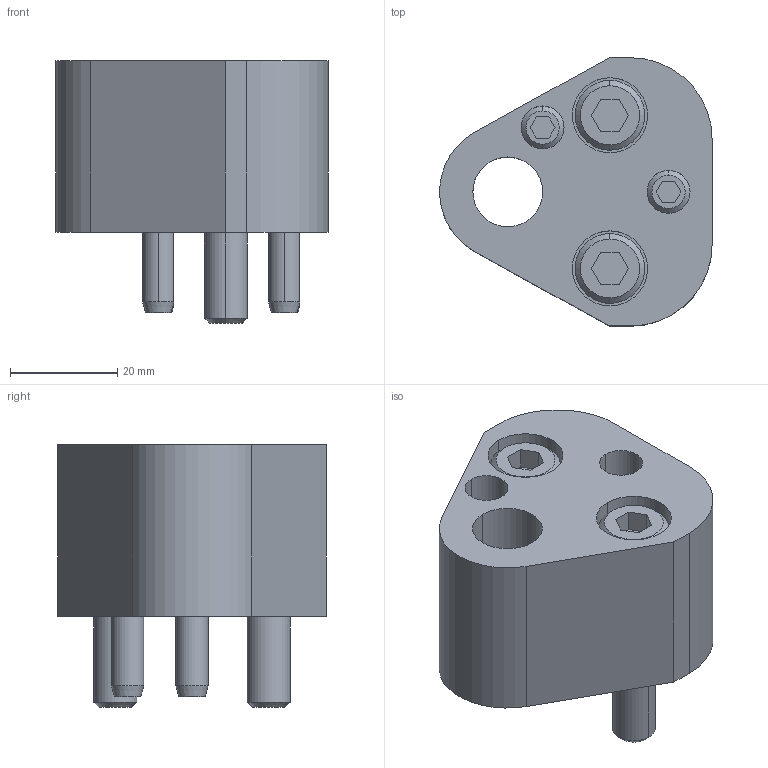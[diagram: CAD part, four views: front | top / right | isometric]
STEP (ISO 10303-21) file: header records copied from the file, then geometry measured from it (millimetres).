
FILE_DESCRIPTION(/* description */ (''),/* implementation_level */ '2;1');
FILE_NAME(/* name */ '3d_crnar13_03627_r00.stp',/* time_stamp */ '2011-01-10T14:16:20+09:00',/* author */ ('MISUMI'),/* organization */ (''),/* preprocessor_version */ 'ST-DEVELOPER v11',/* originating_system */ 'UGS - NX 5.0',/* authorisation */ '');
FILE_SCHEMA (('CONFIG_CONTROL_DESIGN'));
Length unit declared in the file: millimetre
Products named in the file (1): 3d_crnar13_03627_r00
Bounding box: 50.76 x 50 x 49 mm (x, y, z)
Volume: 54790.4 mm3; surface area: 18461.9 mm2
Topology: 7 solids, 7 shells, 135 faces, 294 edges, 188 vertices
Faces by surface type: plane 60, cylinder 49, cone 26
Entity records: 3836 total; most frequent: DIRECTION 684, CARTESIAN_POINT 672, ORIENTED_EDGE 588, EDGE_CURVE 294, AXIS2_PLACEMENT_3D 260, VERTEX_POINT 188, LINE 164, VECTOR 164
